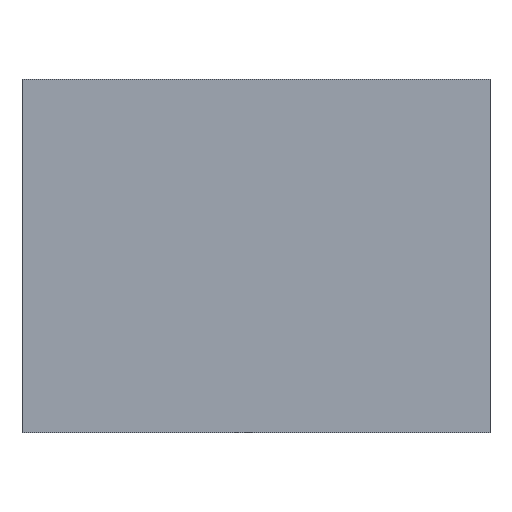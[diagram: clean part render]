
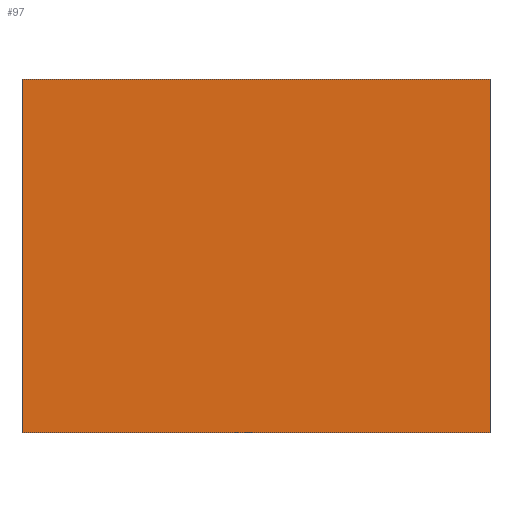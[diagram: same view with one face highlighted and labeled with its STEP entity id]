
A CAD part, front view. The second image highlights one B-rep face of the part: STEP entity #97.
In plain terms, the highlighted planar face has unit normal (0, -1, 0).
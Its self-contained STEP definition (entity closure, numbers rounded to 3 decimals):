
#21 = EDGE_CURVE('',#22,#24,#26,.T.);
#22 = VERTEX_POINT('',#23);
#23 = CARTESIAN_POINT('',(-450.,-180.,0.));
#24 = VERTEX_POINT('',#25);
#25 = CARTESIAN_POINT('',(-450.,-180.,680.));
#26 = LINE('',#27,#28);
#27 = CARTESIAN_POINT('',(-450.,-180.,0.));
#28 = VECTOR('',#29,1.);
#29 = DIRECTION('',(0.,0.,1.));
#61 = EDGE_CURVE('',#62,#64,#66,.T.);
#62 = VERTEX_POINT('',#63);
#63 = CARTESIAN_POINT('',(450.,-180.,0.));
#64 = VERTEX_POINT('',#65);
#65 = CARTESIAN_POINT('',(450.,-180.,680.));
#66 = LINE('',#67,#68);
#67 = CARTESIAN_POINT('',(450.,-180.,0.));
#68 = VECTOR('',#69,1.);
#69 = DIRECTION('',(0.,0.,1.));
#97 = ADVANCED_FACE('',(#98),#114,.F.);
#98 = FACE_BOUND('',#99,.F.);
#99 = EDGE_LOOP('',(#100,#106,#107,#113));
#100 = ORIENTED_EDGE('',*,*,#101,.F.);
#101 = EDGE_CURVE('',#22,#62,#102,.T.);
#102 = LINE('',#103,#104);
#103 = CARTESIAN_POINT('',(-450.,-180.,0.));
#104 = VECTOR('',#105,1.);
#105 = DIRECTION('',(1.,0.,-0.));
#106 = ORIENTED_EDGE('',*,*,#21,.T.);
#107 = ORIENTED_EDGE('',*,*,#108,.T.);
#108 = EDGE_CURVE('',#24,#64,#109,.T.);
#109 = LINE('',#110,#111);
#110 = CARTESIAN_POINT('',(-450.,-180.,680.));
#111 = VECTOR('',#112,1.);
#112 = DIRECTION('',(1.,0.,-0.));
#113 = ORIENTED_EDGE('',*,*,#61,.F.);
#114 = PLANE('',#115);
#115 = AXIS2_PLACEMENT_3D('',#116,#117,#118);
#116 = CARTESIAN_POINT('',(-450.,-180.,0.));
#117 = DIRECTION('',(-0.,1.,0.));
#118 = DIRECTION('',(0.,0.,1.));
